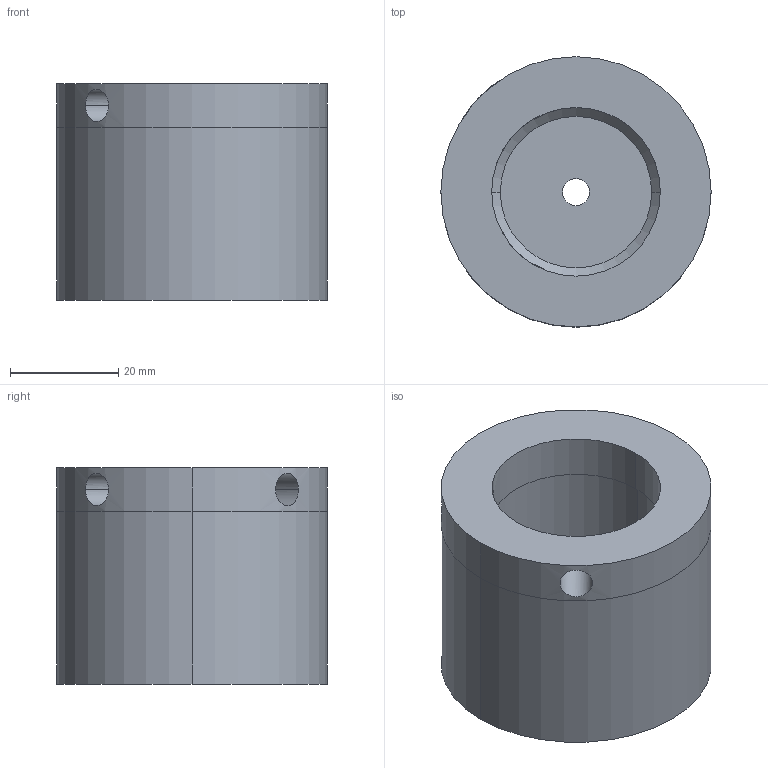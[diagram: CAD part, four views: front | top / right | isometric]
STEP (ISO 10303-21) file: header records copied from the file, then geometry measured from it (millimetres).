
FILE_DESCRIPTION(/* description */ (''),/* implementation_level */ '2;1');
FILE_NAME(/* name */ '3d_usn32-40_06270_r00.stp',/* time_stamp */ '2011-01-10T14:08:53+09:00',/* author */ ('MISUMI'),/* organization */ (''),/* preprocessor_version */ 'ST-DEVELOPER v11',/* originating_system */ 'UGS - NX 5.0',/* authorisation */ '');
FILE_SCHEMA (('CONFIG_CONTROL_DESIGN'));
Length unit declared in the file: millimetre
Products named in the file (1): 3d_usn32-40_06270_r00
Bounding box: 50 x 50 x 40 mm (x, y, z)
Volume: 51839.5 mm3; surface area: 13777.7 mm2
Topology: 1 solids, 1 shells, 20 faces, 44 edges, 28 vertices
Faces by surface type: cylinder 14, plane 4, cone 2
Entity records: 878 total; most frequent: CARTESIAN_POINT 333, DIRECTION 98, ORIENTED_EDGE 88, EDGE_CURVE 44, AXIS2_PLACEMENT_3D 41, EDGE_LOOP 28, VERTEX_POINT 28, ADVANCED_FACE 20
